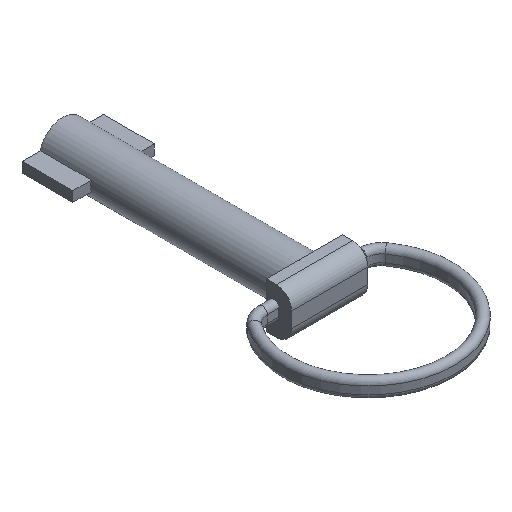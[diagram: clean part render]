
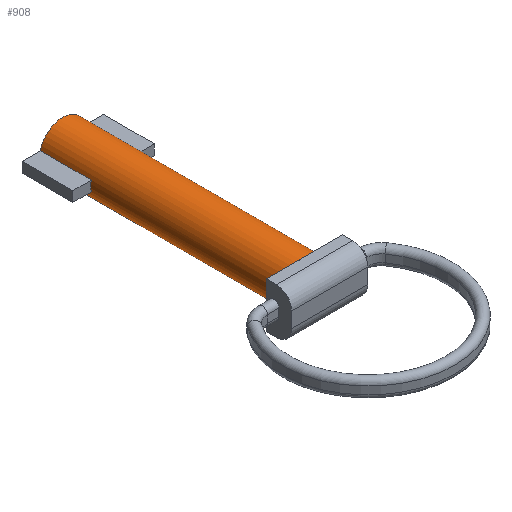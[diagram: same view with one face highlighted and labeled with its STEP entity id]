
A CAD part, isometric view. The second image highlights one B-rep face of the part: STEP entity #908.
In plain terms, the highlighted cylindrical face has radius 4.5 mm (diameter 9 mm), a full revolution.
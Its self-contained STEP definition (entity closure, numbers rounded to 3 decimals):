
#9 = EDGE_CURVE ( 'NONE', #376, #994, #153, .T. ) ;
#46 = EDGE_CURVE ( 'NONE', #152, #665, #1091, .T. ) ;
#54 = VERTEX_POINT ( 'NONE', #261 ) ;
#60 = DIRECTION ( 'NONE',  ( 0., 0., -1. ) ) ;
#65 = CARTESIAN_POINT ( 'NONE',  ( 0., 40., 0. ) ) ;
#69 = ORIENTED_EDGE ( 'NONE', *, *, #337, .F. ) ;
#75 = EDGE_CURVE ( 'NONE', #321, #1171, #869, .T. ) ;
#77 = CIRCLE ( 'NONE', #596, 4.5 ) ;
#85 = FACE_OUTER_BOUND ( 'NONE', #231, .T. ) ;
#101 = DIRECTION ( 'NONE',  ( 0., 1., 0. ) ) ;
#123 = VERTEX_POINT ( 'NONE', #1031 ) ;
#125 = CARTESIAN_POINT ( 'NONE',  ( 0., 2.5, 4.5 ) ) ;
#137 = CARTESIAN_POINT ( 'NONE',  ( -4.387, 40., 1. ) ) ;
#152 = VERTEX_POINT ( 'NONE', #845 ) ;
#153 = CIRCLE ( 'NONE', #968, 4.5 ) ;
#177 = EDGE_CURVE ( 'NONE', #54, #665, #1007, .T. ) ;
#197 = LINE ( 'NONE', #943, #574 ) ;
#209 = CARTESIAN_POINT ( 'NONE',  ( 0., 50., 0. ) ) ;
#217 = VERTEX_POINT ( 'NONE', #125 ) ;
#225 = DIRECTION ( 'NONE',  ( 0., -1., 0. ) ) ;
#227 = CARTESIAN_POINT ( 'NONE',  ( -4.387, 40., -1. ) ) ;
#231 = EDGE_LOOP ( 'NONE', ( #909, #898, #431, #300, #310, #1061, #322, #725 ) ) ;
#246 = AXIS2_PLACEMENT_3D ( 'NONE', #829, #1200, #849 ) ;
#261 = CARTESIAN_POINT ( 'NONE',  ( -4.387, 50., 1. ) ) ;
#272 = EDGE_CURVE ( 'NONE', #1171, #54, #715, .T. ) ;
#275 = DIRECTION ( 'NONE',  ( 0., 1., 0. ) ) ;
#285 = CIRCLE ( 'NONE', #1101, 4.5 ) ;
#293 = DIRECTION ( 'NONE',  ( 0., 1., 0. ) ) ;
#297 = ORIENTED_EDGE ( 'NONE', *, *, #416, .F. ) ;
#300 = ORIENTED_EDGE ( 'NONE', *, *, #9, .F. ) ;
#301 = EDGE_CURVE ( 'NONE', #152, #625, #1141, .T. ) ;
#310 = ORIENTED_EDGE ( 'NONE', *, *, #771, .T. ) ;
#321 = VERTEX_POINT ( 'NONE', #227 ) ;
#322 = ORIENTED_EDGE ( 'NONE', *, *, #46, .T. ) ;
#334 = CARTESIAN_POINT ( 'NONE',  ( 4.387, 61.556, -1. ) ) ;
#337 = EDGE_CURVE ( 'NONE', #217, #123, #77, .T. ) ;
#376 = VERTEX_POINT ( 'NONE', #1209 ) ;
#388 = CARTESIAN_POINT ( 'NONE',  ( -4.387, 50., -1. ) ) ;
#416 = EDGE_CURVE ( 'NONE', #123, #217, #285, .T. ) ;
#431 = ORIENTED_EDGE ( 'NONE', *, *, #1059, .F. ) ;
#435 = DIRECTION ( 'NONE',  ( 0., 1., 0. ) ) ;
#443 = AXIS2_PLACEMENT_3D ( 'NONE', #1199, #538, #545 ) ;
#457 = CYLINDRICAL_SURFACE ( 'NONE', #246, 4.5 ) ;
#518 = LINE ( 'NONE', #334, #592 ) ;
#526 = CARTESIAN_POINT ( 'NONE',  ( 4.387, 50., 1. ) ) ;
#538 = DIRECTION ( 'NONE',  ( 0., 1., 0. ) ) ;
#545 = DIRECTION ( 'NONE',  ( 0., 0., 1. ) ) ;
#562 = EDGE_LOOP ( 'NONE', ( #297, #69 ) ) ;
#574 = VECTOR ( 'NONE', #1126, 1000. ) ;
#592 = VECTOR ( 'NONE', #225, 1000. ) ;
#596 = AXIS2_PLACEMENT_3D ( 'NONE', #894, #881, #60 ) ;
#625 = VERTEX_POINT ( 'NONE', #750 ) ;
#633 = CARTESIAN_POINT ( 'NONE',  ( 4.387, 61.556, 1. ) ) ;
#634 = AXIS2_PLACEMENT_3D ( 'NONE', #209, #293, #964 ) ;
#645 = CARTESIAN_POINT ( 'NONE',  ( 0., 2.5, 0. ) ) ;
#665 = VERTEX_POINT ( 'NONE', #526 ) ;
#714 = VECTOR ( 'NONE', #275, 1000. ) ;
#715 = LINE ( 'NONE', #900, #1122 ) ;
#725 = ORIENTED_EDGE ( 'NONE', *, *, #177, .F. ) ;
#731 = FACE_OUTER_BOUND ( 'NONE', #562, .T. ) ;
#750 = CARTESIAN_POINT ( 'NONE',  ( 4.387, 40., -1. ) ) ;
#771 = EDGE_CURVE ( 'NONE', #376, #625, #518, .T. ) ;
#786 = DIRECTION ( 'NONE',  ( 0., 1., 0. ) ) ;
#829 = CARTESIAN_POINT ( 'NONE',  ( 0., 61.556, 0. ) ) ;
#845 = CARTESIAN_POINT ( 'NONE',  ( 4.387, 40., 1. ) ) ;
#849 = DIRECTION ( 'NONE',  ( 0., 0., 1. ) ) ;
#869 = CIRCLE ( 'NONE', #443, 4.5 ) ;
#881 = DIRECTION ( 'NONE',  ( 0., -1., 0. ) ) ;
#886 = DIRECTION ( 'NONE',  ( 0., 0., 1. ) ) ;
#894 = CARTESIAN_POINT ( 'NONE',  ( 0., 2.5, 0. ) ) ;
#898 = ORIENTED_EDGE ( 'NONE', *, *, #75, .F. ) ;
#900 = CARTESIAN_POINT ( 'NONE',  ( -4.387, 61.556, 1. ) ) ;
#908 = ADVANCED_FACE ( 'NONE', ( #85, #731 ), #457, .T. ) ;
#909 = ORIENTED_EDGE ( 'NONE', *, *, #272, .F. ) ;
#943 = CARTESIAN_POINT ( 'NONE',  ( -4.387, 61.556, -1. ) ) ;
#964 = DIRECTION ( 'NONE',  ( 0., 0., 1. ) ) ;
#968 = AXIS2_PLACEMENT_3D ( 'NONE', #1108, #101, #1112 ) ;
#994 = VERTEX_POINT ( 'NONE', #388 ) ;
#1007 = CIRCLE ( 'NONE', #634, 4.5 ) ;
#1009 = AXIS2_PLACEMENT_3D ( 'NONE', #65, #435, #886 ) ;
#1017 = DIRECTION ( 'NONE',  ( 0., 0., -1. ) ) ;
#1031 = CARTESIAN_POINT ( 'NONE',  ( 0., 2.5, -4.5 ) ) ;
#1059 = EDGE_CURVE ( 'NONE', #994, #321, #197, .T. ) ;
#1061 = ORIENTED_EDGE ( 'NONE', *, *, #301, .F. ) ;
#1091 = LINE ( 'NONE', #633, #714 ) ;
#1101 = AXIS2_PLACEMENT_3D ( 'NONE', #645, #1198, #1017 ) ;
#1108 = CARTESIAN_POINT ( 'NONE',  ( 0., 50., 0. ) ) ;
#1112 = DIRECTION ( 'NONE',  ( 0., 0., 1. ) ) ;
#1122 = VECTOR ( 'NONE', #786, 1000. ) ;
#1126 = DIRECTION ( 'NONE',  ( 0., -1., 0. ) ) ;
#1141 = CIRCLE ( 'NONE', #1009, 4.5 ) ;
#1171 = VERTEX_POINT ( 'NONE', #137 ) ;
#1198 = DIRECTION ( 'NONE',  ( 0., -1., 0. ) ) ;
#1199 = CARTESIAN_POINT ( 'NONE',  ( 0., 40., 0. ) ) ;
#1200 = DIRECTION ( 'NONE',  ( 0., 1., 0. ) ) ;
#1209 = CARTESIAN_POINT ( 'NONE',  ( 4.387, 50., -1. ) ) ;
